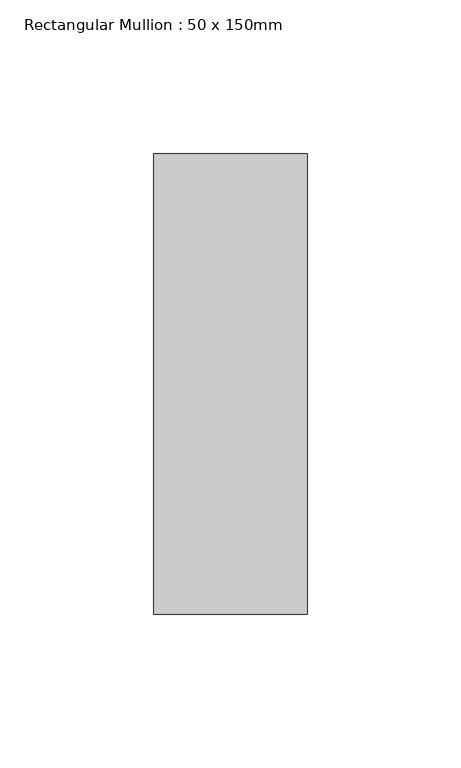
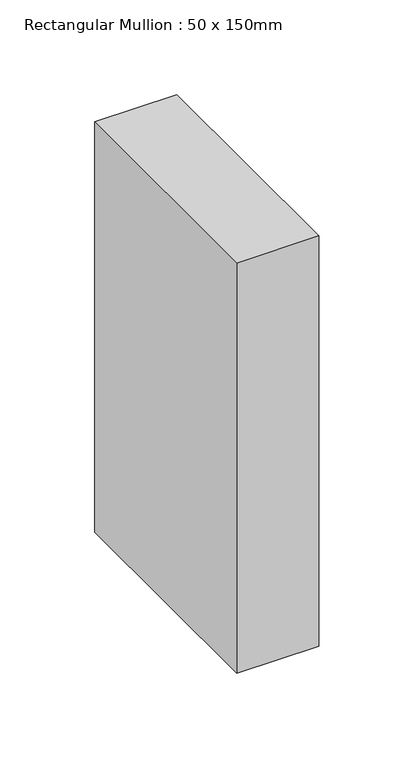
"""IFC4 building model written with IfcOpenShell, lengths in millimetres: member geometry, Rectangular Mullion : 50 x 150mm."""

from ifc_helpers import new_model, si_unit, frame, origin, place, context, project, spatial, polyline, outline, extrude, source, transform, mapped, element, save


def rectangular_mullion_50_x_150mm_67f92187(model_context):
    return source(origin(), model_context, "Body", "SweptSolid", [
        extrude(outline(polyline([(0.0, 75.0), (0.0, -75.0), (-50.0, -75.0), (-50.0, 75.0), (0.0, 75.0)])), frame((0.0, 0.0, -264.2758639), z_axis=(0.0, 0.0, 1.0), x_axis=(1.0, 0.0, 0.0)), (0.0, 0.0, 1.0), 264.2758639),
    ])


if __name__ == "__main__":
    model = new_model("IFC4")
    model_context = context("Model", 3, world=origin())
    ifc_project = project(units=[si_unit("LENGTHUNIT", "METRE", prefix="MILLI")], contexts=[model_context])
    site = spatial("IfcSite", under=ifc_project)
    building = spatial("IfcBuilding", under=site)
    placement = place(None, origin())
    rectangular_mullion_50_x_150mm_shape = rectangular_mullion_50_x_150mm_67f92187(model_context)
    element("IfcMember", 1, ObjectType="Rectangular Mullion : 50 x 150mm", at=placement, inside=building, context=model_context, shape_type="MappedRepresentation", body=[
        mapped(rectangular_mullion_50_x_150mm_shape, transform((0.0, 0.0, 0.0), x_axis=(1.0, 0.0, 0.0), y_axis=(0.0, 1.0, 0.0), z_axis=(0.0, 0.0, 1.0))),
    ])
    save(model, "model.ifc")
